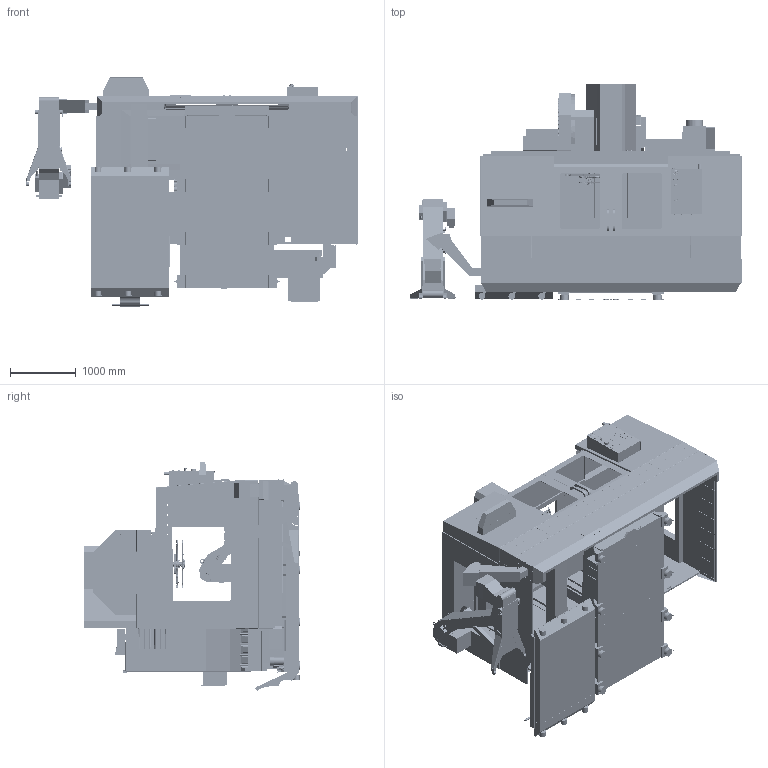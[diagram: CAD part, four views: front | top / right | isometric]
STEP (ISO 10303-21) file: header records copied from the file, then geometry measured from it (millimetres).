
FILE_DESCRIPTION (( 'STEP AP203' ), '1' );
FILE_NAME ('vf-8_40_step__5_2022.step', '2022-05-10T20:48:58', ( '' ), ( '' ), 'SwSTEP 2.0', 'SolidWorks 2021', '' );
FILE_SCHEMA (( 'CONFIG_CONTROL_DESIGN' ));
Length unit declared in the file: inch
Products named in the file (61): 95-Gal Coolant Tank; Coolant Ring-A; CABCOOL_VF-8_40_5_2022; 50-SMTC ARM HIGH _VF-8_40_5_2022; AAG_VF-8_40_5_2022; PENDANT _VF-8_40_5_2022; PENDANT STORAGE; ENCLOSURE BOTTOM_VF-8_40_5_2022; 10000057196_Pendant_Common_32-6042 FRONT PANEL ASSY MILL SST FREE HANG_defeature; PADS_VF-8_40_5_2022; AUTOMATIC-AIR-GUN; 50-SMTC ARM-VF-L; 30-SMTC ARM-VF-L; HAAS CHIP-LIFT; AIR-CABIN_VF-8_40_5_2022; TABLE_VF-8_40_5_2022; 10000101772_defeature; 50-SMTC _VF-8_40_5_2022; CABCOOL; ENCL-TOP-VF-8; ENCLOSURE TOP _VF-8_40_5_2022; ENCLOSURE Z-EXT_VF-8_40_5_2022; 10000096509_DEF_Door Closed Cover Up_defeature; SADDLE_VF-8_40_5_2022; 10000010575_defeature; Door Closed Cover Up_defeature^10000096509_DEF; 32-6042 FRONT PANEL ASSY MILL SST FREE HANG_defeature^10000057196_Pendant_Common; E-CABIN_VF-8_40_5_2022; ELECTIRCAL CABINET_DOOR CLOSED; HAAS-P-COOL; 95-GAL COOLANT TANK_VF-8_40_5_2022; ANCHORING LOCATIONS_VF-8_40_5_2022; ENCL-BOTTOM-VF-8; Pads and Stud; 37-3951_DEF; PENDANT AND STORAGE; 50-SMTC ARM LOW _VF-8_40_5_2022; CONV PKG_VF-8_40_5_2022; 30-SMTC ARM HIGH_VF-8_40_5_2022; COLUMN_VF-8_40_5_2022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
Assembly tree (69 placements, depth 5):
  vf-8_40_step__5_2022
    BASE_VF-8_40_5_2022
      10000128018_DEF
    COLUMN_VF-8_40_5_2022
      37-0649_DEF
    ENCLOSURE TOP _VF-8_40_5_2022
      ENCL-TOP-VF-8
    ENCLOSURE Z-EXT_VF-8_40_5_2022
      37-2253_DEF
    ENCLOSURE BOTTOM_VF-8_40_5_2022
      ENCL-BOTTOM-VF-8
    DOOR_VF-8_40_5_2022
      DOOR-VF-8_DEF
    PADS_VF-8_40_5_2022
      Pads and Stud  x8
    PENDANT _VF-8_40_5_2022
      PENDANT AND STORAGE
        PENDANT STORAGE
        10000057196_Pendant_Common_32-6042 FRONT PANEL ASSY MILL SST FREE HANG_defeature
          32-6042 FRONT PANEL ASSY MILL SST FREE HANG_defeature^10000057196_Pendant_Common
    CONV PKG_VF-8_40_5_2022
      CONV-HOLDER-VF-MD
    SPINDLE HEAD _VF-8_40_5_2022
      10000019000_DEF
      Coolant Ring-A
      40T Spindle_37-4212
    E-CABIN_VF-8_40_5_2022
      ELECTIRCAL CABINET_DOOR CLOSED
    SADDLE_VF-8_40_5_2022
      10000008987_defeature
    TABLE_VF-8_40_5_2022
      10000010575_defeature
    CABCOOL_VF-8_40_5_2022
      CABCOOL
    AIR-CABIN_VF-8_40_5_2022
      10000096509_DEF_Door Closed Cover Up_defeature
        Door Closed Cover Up_defeature^10000096509_DEF
    30-SMTC_VF-8_40_5_2022
      10000101772_defeature
    30-SMTC ARM HIGH_VF-8_40_5_2022
      30-SMTC ARM-VF-L
    30-SMTC ARM LOW _VF-8_40_5_2022
      30-SMTC ARM-VF-L
    50-SMTC _VF-8_40_5_2022
      37-3951_DEF
    50-SMTC ARM HIGH _VF-8_40_5_2022
      50-SMTC ARM-VF-L
    50-SMTC ARM LOW _VF-8_40_5_2022
      50-SMTC ARM-VF-L
    CHIP CHUTE_VF-8_40_5_2022
      10000095056_defeature
    95-GAL COOLANT TANK_VF-8_40_5_2022
      95-Gal Coolant Tank
    EES_VF-8_40_5_2022
      ENCLOSURE EXHAUST SYSTEM
    HPC_VF-8_40_5_2022
      HAAS-P-COOL
    AAG_VF-8_40_5_2022
      AUTOMATIC-AIR-GUN
    HCL_VF-8_40_5_2022
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Bounding box: 5066.08 x 3287.16 x 3494.74 mm (x, y, z)
Volume: 5806552998.2 mm3; surface area: 177871057.4 mm2
Topology: 150 solids, 200 shells, 20435 faces, 54030 edges, 34497 vertices
Faces by surface type: plane 11779, cylinder 5867, bspline 1462, cone 1037, torus 230, sphere 60
Entity records: 671648 total; most frequent: CARTESIAN_POINT 188007, ORIENTED_EDGE 102286, DIRECTION 94184, EDGE_CURVE 51143, LINE 34260, VECTOR 34260, VERTEX_POINT 32807, AXIS2_PLACEMENT_3D 29962
